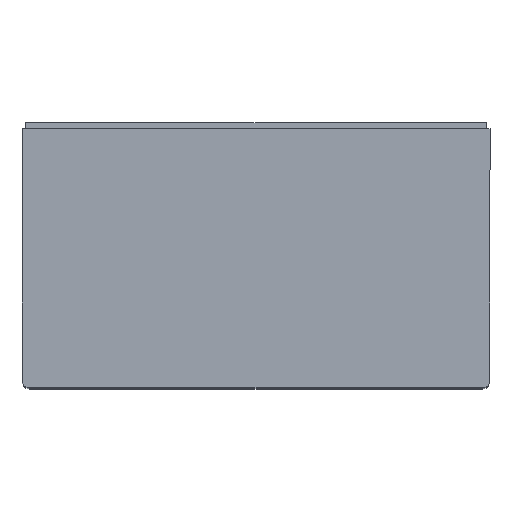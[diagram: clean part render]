
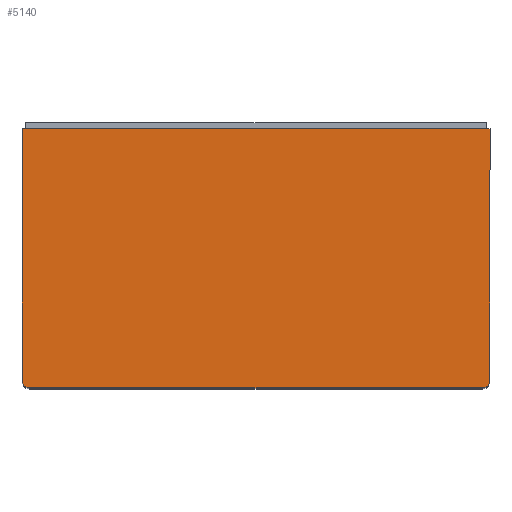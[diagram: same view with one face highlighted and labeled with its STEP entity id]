
A CAD part, top view. The second image highlights one B-rep face of the part: STEP entity #5140.
In plain terms, the highlighted planar face has unit normal (0, 0, 1) as drawn and (0, 0, -1) by its records, which use the part's own axes.
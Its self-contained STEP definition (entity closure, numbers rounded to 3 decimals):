
#5043=CARTESIAN_POINT('',(0.,2.,0.0));
#5044=VERTEX_POINT('',#5043);
#5051=CARTESIAN_POINT('',(2.,0.0,0.0));
#5052=VERTEX_POINT('',#5051);
#5053=CARTESIAN_POINT('',(2.,2.0,0.0));
#5054=DIRECTION('',(0.0,0.0,1.0));
#5055=DIRECTION('',(-0.707,-0.707,0.0));
#5056=AXIS2_PLACEMENT_3D('',#5053,#5054,#5055);
#5057=CIRCLE('',#5056,2.0);
#5058=EDGE_CURVE('',#5044,#5052,#5057,.T.);
#5075=CARTESIAN_POINT('',(118.0,0.0,0.0));
#5076=VERTEX_POINT('',#5075);
#5077=CARTESIAN_POINT('',(2.,0.0,0.0));
#5078=DIRECTION('',(1.0,0.0,0.0));
#5079=VECTOR('',#5078,116.);
#5080=LINE('',#5077,#5079);
#5081=EDGE_CURVE('',#5052,#5076,#5080,.T.);
#5100=CARTESIAN_POINT('',(60.0,33.25,0.0));
#5101=DIRECTION('',(0.0,0.0,1.0));
#5102=DIRECTION('',(1.0,0.0,0.0));
#5103=AXIS2_PLACEMENT_3D('',#5100,#5101,#5102);
#5104=PLANE('',#5103);
#5105=ORIENTED_EDGE('',*,*,#5058,.F.);
#5106=CARTESIAN_POINT('',(0.,66.5,0.0));
#5107=VERTEX_POINT('',#5106);
#5108=CARTESIAN_POINT('',(0.,66.5,0.0));
#5109=DIRECTION('',(0.0,-1.0,0.0));
#5110=VECTOR('',#5109,64.5);
#5111=LINE('',#5108,#5110);
#5112=EDGE_CURVE('',#5107,#5044,#5111,.T.);
#5113=ORIENTED_EDGE('',*,*,#5112,.F.);
#5114=CARTESIAN_POINT('',(120.0,66.5,0.0));
#5115=VERTEX_POINT('',#5114);
#5116=CARTESIAN_POINT('',(120.0,66.5,0.0));
#5117=DIRECTION('',(-1.0,0.0,0.0));
#5118=VECTOR('',#5117,120.);
#5119=LINE('',#5116,#5118);
#5120=EDGE_CURVE('',#5115,#5107,#5119,.T.);
#5121=ORIENTED_EDGE('',*,*,#5120,.F.);
#5122=CARTESIAN_POINT('',(120.0,2.,0.0));
#5123=VERTEX_POINT('',#5122);
#5124=CARTESIAN_POINT('',(120.0,2.,0.0));
#5125=DIRECTION('',(0.0,1.0,0.0));
#5126=VECTOR('',#5125,64.5);
#5127=LINE('',#5124,#5126);
#5128=EDGE_CURVE('',#5123,#5115,#5127,.T.);
#5129=ORIENTED_EDGE('',*,*,#5128,.F.);
#5130=CARTESIAN_POINT('',(118.0,2.,0.0));
#5131=DIRECTION('',(0.0,0.0,1.0));
#5132=DIRECTION('',(0.707,-0.707,0.0));
#5133=AXIS2_PLACEMENT_3D('',#5130,#5131,#5132);
#5134=CIRCLE('',#5133,2.0);
#5135=EDGE_CURVE('',#5076,#5123,#5134,.T.);
#5136=ORIENTED_EDGE('',*,*,#5135,.F.);
#5137=ORIENTED_EDGE('',*,*,#5081,.F.);
#5138=EDGE_LOOP('',(#5105,#5113,#5121,#5129,#5136,#5137));
#5139=FACE_OUTER_BOUND('',#5138,.T.);
#5140=ADVANCED_FACE('',(#5139),#5104,.F.);
